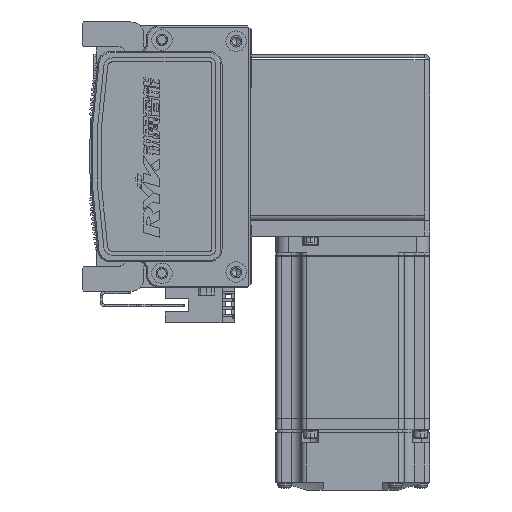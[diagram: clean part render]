
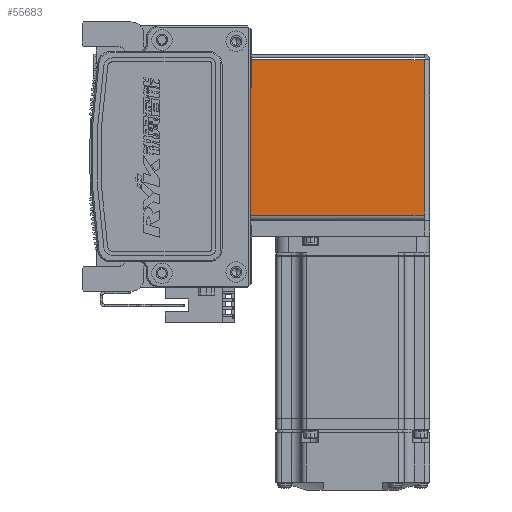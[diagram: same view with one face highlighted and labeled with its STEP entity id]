
A CAD part, left-side view. The second image highlights one B-rep face of the part: STEP entity #55683.
In plain terms, the highlighted planar face has unit normal (-1, 0, 0) as drawn and (0, 0, -1) by its records, which use the part's own axes.
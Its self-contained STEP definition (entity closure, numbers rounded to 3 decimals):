
#2446 = LINE ( 'NONE', #55741, #14492 ) ;
#3467 = VERTEX_POINT ( 'NONE', #11311 ) ;
#3810 = EDGE_CURVE ( 'NONE', #45311, #44127, #2446, .T. ) ;
#4478 = LINE ( 'NONE', #46083, #56121 ) ;
#6586 = CARTESIAN_POINT ( 'NONE',  ( 30.263, 72.5, -35. ) ) ;
#6754 = EDGE_CURVE ( 'NONE', #58740, #45311, #35168, .T. ) ;
#8205 = ORIENTED_EDGE ( 'NONE', *, *, #6754, .T. ) ;
#11311 = CARTESIAN_POINT ( 'NONE',  ( 30.263, 0.737, -35. ) ) ;
#12510 = VECTOR ( 'NONE', #46164, 1000. ) ;
#14315 = DIRECTION ( 'NONE',  ( 0., 0., 1. ) ) ;
#14492 = VECTOR ( 'NONE', #31615, 1000. ) ;
#16078 = LINE ( 'NONE', #47164, #28276 ) ;
#18434 = ORIENTED_EDGE ( 'NONE', *, *, #61216, .F. ) ;
#19933 = CARTESIAN_POINT ( 'NONE',  ( -30.293, 0., -35. ) ) ;
#20886 = EDGE_CURVE ( 'NONE', #44127, #3467, #16078, .T. ) ;
#24070 = DIRECTION ( 'NONE',  ( 0., -1., 0. ) ) ;
#24281 = PLANE ( 'NONE',  #47131 ) ;
#25513 = DIRECTION ( 'NONE',  ( 1., 0., 0. ) ) ;
#28276 = VECTOR ( 'NONE', #31805, 1000. ) ;
#29234 = EDGE_LOOP ( 'NONE', ( #63662, #18434, #8205, #48391 ) ) ;
#31615 = DIRECTION ( 'NONE',  ( 1., 0., 0. ) ) ;
#31805 = DIRECTION ( 'NONE',  ( 0., -1., 0. ) ) ;
#35168 = LINE ( 'NONE', #19933, #12510 ) ;
#42701 = CARTESIAN_POINT ( 'NONE',  ( -30.293, 0.737, -35. ) ) ;
#44127 = VERTEX_POINT ( 'NONE', #6586 ) ;
#45311 = VERTEX_POINT ( 'NONE', #64312 ) ;
#46083 = CARTESIAN_POINT ( 'NONE',  ( 32.5, 0.737, -35. ) ) ;
#46164 = DIRECTION ( 'NONE',  ( 0., 1., 0. ) ) ;
#47131 = AXIS2_PLACEMENT_3D ( 'NONE', #60824, #14315, #24070 ) ;
#47164 = CARTESIAN_POINT ( 'NONE',  ( 30.263, 72.5, -35. ) ) ;
#48391 = ORIENTED_EDGE ( 'NONE', *, *, #3810, .T. ) ;
#49249 = FACE_OUTER_BOUND ( 'NONE', #29234, .T. ) ;
#55683 = ADVANCED_FACE ( 'NONE', ( #49249 ), #24281, .F. ) ;
#55741 = CARTESIAN_POINT ( 'NONE',  ( 0., 72.5, -35. ) ) ;
#56121 = VECTOR ( 'NONE', #25513, 1000. ) ;
#58740 = VERTEX_POINT ( 'NONE', #42701 ) ;
#60824 = CARTESIAN_POINT ( 'NONE',  ( 0., 0., -35. ) ) ;
#61216 = EDGE_CURVE ( 'NONE', #58740, #3467, #4478, .T. ) ;
#63662 = ORIENTED_EDGE ( 'NONE', *, *, #20886, .T. ) ;
#64312 = CARTESIAN_POINT ( 'NONE',  ( -30.293, 72.5, -35. ) ) ;
